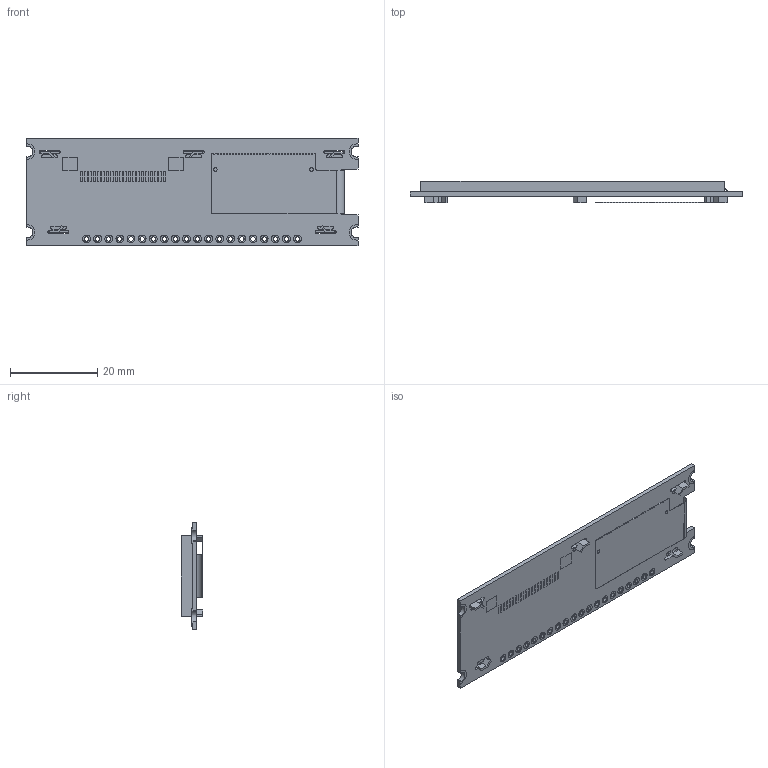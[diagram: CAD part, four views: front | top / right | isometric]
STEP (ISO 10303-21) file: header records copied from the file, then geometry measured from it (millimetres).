
FILE_DESCRIPTION (( 'STEP AP203' ), '1' );
FILE_NAME ('NHD-0216CW-Ax3.STEP', '2024-11-04T17:43:38', ( '' ), ( '' ), 'SwSTEP 2.0', 'SolidWorks 2019', '' );
FILE_SCHEMA (( 'CONFIG_CONTROL_DESIGN' ));
Length unit declared in the file: millimetre
Products named in the file (2): NHD-0216CW-Ax3
Bounding box: 76 x 5 x 24.5 mm (x, y, z)
Volume: 4436.3 mm3; surface area: 13894 mm2
Topology: 8 solids, 8 shells, 567 faces, 1455 edges, 969 vertices
Faces by surface type: plane 340, cylinder 221, bspline 6
Entity records: 17930 total; most frequent: CARTESIAN_POINT 3461, DIRECTION 3005, ORIENTED_EDGE 2910, EDGE_CURVE 1455, AXIS2_PLACEMENT_3D 1009, VECTOR 987, LINE 987, VERTEX_POINT 969
